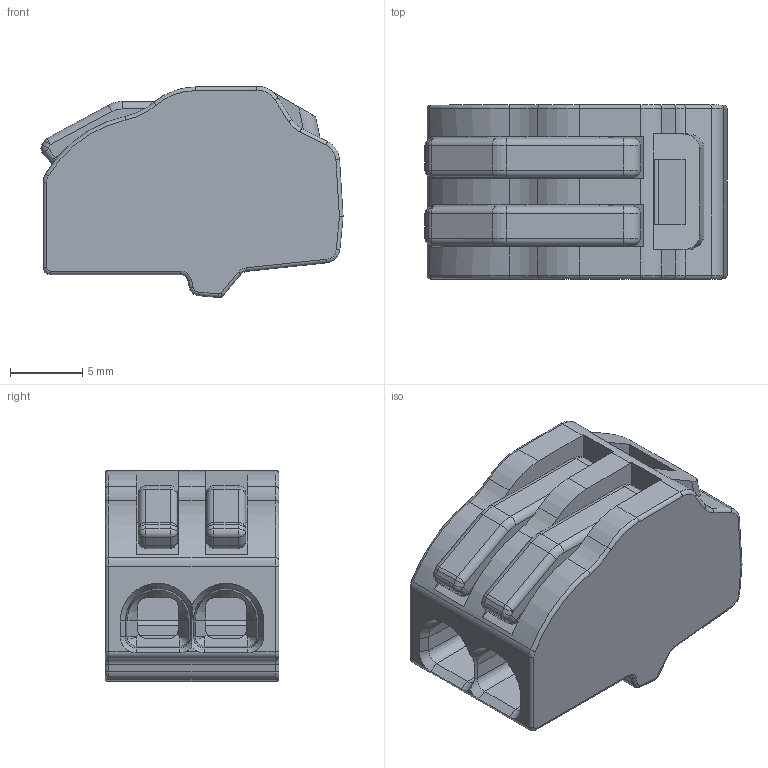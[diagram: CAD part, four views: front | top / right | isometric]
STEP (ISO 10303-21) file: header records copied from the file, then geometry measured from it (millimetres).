
FILE_DESCRIPTION(/* description */ ('Unknown'),/* implementation_level */ '2;1');
FILE_NAME(/* name */ '4502',/* time_stamp */ '2024-05-29T11:04:18+02:00',/* author */ ('Unknown'),/* organization */ ('Unknown'),/* preprocessor_version */ 'ST-DEVELOPER v16.7',/* originating_system */ 'DEX',/* authorisation */ $);
FILE_SCHEMA (('AUTOMOTIVE_DESIGN {1 0 10303 214 3 1 1}'));
Length unit declared in the file: millimetre
Products named in the file (3): 4502; Palanca 4500
Assembly tree (3 placements, depth 2):
  4502
    4502
    Palanca 4500  x2
Bounding box: 20.85 x 12 x 14.57 mm (x, y, z)
Volume: 1602.6 mm3; surface area: 2449.8 mm2
Topology: 3 solids, 3 shells, 268 faces, 672 edges, 390 vertices
Faces by surface type: plane 108, cylinder 96, torus 34, cone 18, sphere 12
Entity records: 6758 total; most frequent: DIRECTION 1208, CARTESIAN_POINT 1196, ORIENTED_EDGE 1128, EDGE_CURVE 564, AXIS2_PLACEMENT_3D 434, VERTEX_POINT 340, LINE 340, VECTOR 340
